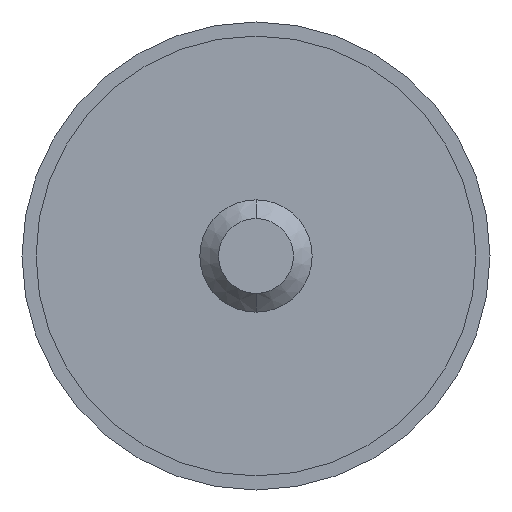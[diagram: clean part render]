
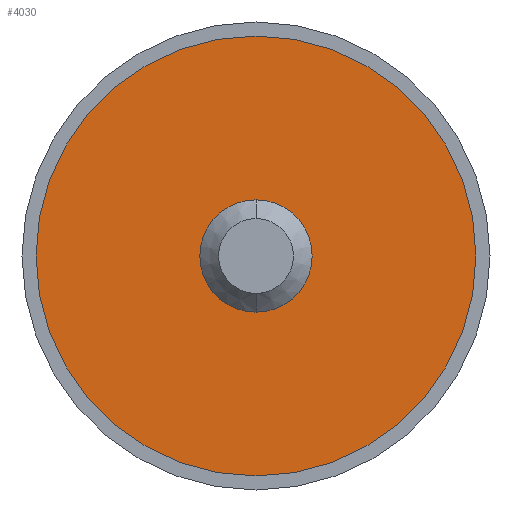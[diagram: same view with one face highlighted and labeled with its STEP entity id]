
A CAD part, front view. The second image highlights one B-rep face of the part: STEP entity #4030.
In plain terms, the highlighted planar face has unit normal (0, -1, 0).
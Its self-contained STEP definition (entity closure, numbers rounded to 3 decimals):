
#48 = FACE_OUTER_BOUND ( 'NONE', #3899, .T. ) ;
#1114 = EDGE_CURVE ( 'NONE', #3017, #2983, #1193, .T. ) ;
#1193 = CIRCLE ( 'NONE', #1263, 3. ) ;
#1263 = AXIS2_PLACEMENT_3D ( 'NONE', #2501, #1823, #1809 ) ;
#1334 = CARTESIAN_POINT ( 'NONE',  ( 0., -1., -3. ) ) ;
#1497 = AXIS2_PLACEMENT_3D ( 'NONE', #1577, #2919, #3186 ) ;
#1519 = DIRECTION ( 'NONE',  ( 0., 0., 1. ) ) ;
#1546 = AXIS2_PLACEMENT_3D ( 'NONE', #3281, #3333, #1644 ) ;
#1577 = CARTESIAN_POINT ( 'NONE',  ( 0., -1., 0. ) ) ;
#1588 = ORIENTED_EDGE ( 'NONE', *, *, #4154, .F. ) ;
#1601 = ORIENTED_EDGE ( 'NONE', *, *, #3725, .F. ) ;
#1644 = DIRECTION ( 'NONE',  ( 0., 0., 1. ) ) ;
#1779 = VERTEX_POINT ( 'NONE', #3227 ) ;
#1788 = CARTESIAN_POINT ( 'NONE',  ( 0., -1., 11.75 ) ) ;
#1809 = DIRECTION ( 'NONE',  ( 0., 0., -1. ) ) ;
#1823 = DIRECTION ( 'NONE',  ( 0., -1., 0. ) ) ;
#1984 = AXIS2_PLACEMENT_3D ( 'NONE', #2740, #2405, #3460 ) ;
#2024 = CIRCLE ( 'NONE', #1497, 3. ) ;
#2189 = EDGE_LOOP ( 'NONE', ( #1588, #2977 ) ) ;
#2405 = DIRECTION ( 'NONE',  ( 0., 1., 0. ) ) ;
#2501 = CARTESIAN_POINT ( 'NONE',  ( 0., -1., 0. ) ) ;
#2588 = CIRCLE ( 'NONE', #1546, 11.75 ) ;
#2656 = VERTEX_POINT ( 'NONE', #1788 ) ;
#2710 = ORIENTED_EDGE ( 'NONE', *, *, #3563, .F. ) ;
#2740 = CARTESIAN_POINT ( 'NONE',  ( 0., -1., 0. ) ) ;
#2777 = PLANE ( 'NONE',  #3188 ) ;
#2919 = DIRECTION ( 'NONE',  ( 0., -1., 0. ) ) ;
#2977 = ORIENTED_EDGE ( 'NONE', *, *, #1114, .F. ) ;
#2983 = VERTEX_POINT ( 'NONE', #3659 ) ;
#3017 = VERTEX_POINT ( 'NONE', #1334 ) ;
#3186 = DIRECTION ( 'NONE',  ( 0., 0., -1. ) ) ;
#3188 = AXIS2_PLACEMENT_3D ( 'NONE', #3807, #3819, #1519 ) ;
#3227 = CARTESIAN_POINT ( 'NONE',  ( 0., -1., -11.75 ) ) ;
#3281 = CARTESIAN_POINT ( 'NONE',  ( 0., -1., 0. ) ) ;
#3333 = DIRECTION ( 'NONE',  ( 0., 1., 0. ) ) ;
#3460 = DIRECTION ( 'NONE',  ( 0., 0., 1. ) ) ;
#3563 = EDGE_CURVE ( 'NONE', #1779, #2656, #2588, .T. ) ;
#3659 = CARTESIAN_POINT ( 'NONE',  ( 0., -1., 3. ) ) ;
#3725 = EDGE_CURVE ( 'NONE', #2656, #1779, #4015, .T. ) ;
#3807 = CARTESIAN_POINT ( 'NONE',  ( 0., -1., 0. ) ) ;
#3819 = DIRECTION ( 'NONE',  ( 0., 1., 0. ) ) ;
#3899 = EDGE_LOOP ( 'NONE', ( #1601, #2710 ) ) ;
#4015 = CIRCLE ( 'NONE', #1984, 11.75 ) ;
#4030 = ADVANCED_FACE ( 'NONE', ( #4173, #48 ), #2777, .F. ) ;
#4154 = EDGE_CURVE ( 'NONE', #2983, #3017, #2024, .T. ) ;
#4173 = FACE_BOUND ( 'NONE', #2189, .T. ) ;
